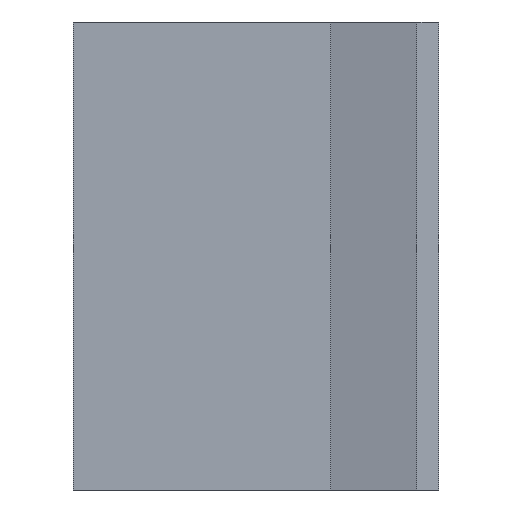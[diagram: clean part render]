
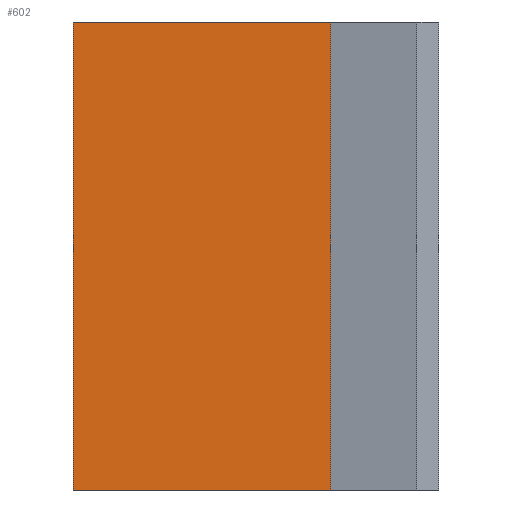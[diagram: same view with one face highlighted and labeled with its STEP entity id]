
A CAD part, left-side view. The second image highlights one B-rep face of the part: STEP entity #602.
In plain terms, the highlighted planar face has unit normal (-1, 0, 0).
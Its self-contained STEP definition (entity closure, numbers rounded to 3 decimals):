
#36=FACE_OUTER_BOUND('',#66,.T.);
#66=EDGE_LOOP('',(#491,#492,#493,#494));
#102=LINE('',#846,#186);
#141=LINE('',#924,#225);
#144=LINE('',#931,#228);
#145=LINE('',#932,#229);
#186=VECTOR('',#690,10.);
#225=VECTOR('',#751,10.);
#228=VECTOR('',#758,10.);
#229=VECTOR('',#759,10.);
#261=VERTEX_POINT('',#842);
#262=VERTEX_POINT('',#844);
#290=VERTEX_POINT('',#922);
#292=VERTEX_POINT('',#930);
#326=EDGE_CURVE('',#262,#261,#102,.T.);
#365=EDGE_CURVE('',#290,#262,#141,.T.);
#368=EDGE_CURVE('',#292,#290,#144,.T.);
#369=EDGE_CURVE('',#261,#292,#145,.T.);
#491=ORIENTED_EDGE('',*,*,#365,.F.);
#492=ORIENTED_EDGE('',*,*,#368,.F.);
#493=ORIENTED_EDGE('',*,*,#369,.F.);
#494=ORIENTED_EDGE('',*,*,#326,.F.);
#572=PLANE('',#634);
#602=ADVANCED_FACE('',(#36),#572,.T.);
#634=AXIS2_PLACEMENT_3D('',#929,#756,#757);
#690=DIRECTION('',(0.,0.,-1.));
#751=DIRECTION('',(0.,-1.,0.));
#756=DIRECTION('center_axis',(-1.,0.,0.));
#757=DIRECTION('ref_axis',(0.,0.,1.));
#758=DIRECTION('',(0.,0.,1.));
#759=DIRECTION('',(0.,1.,0.));
#842=CARTESIAN_POINT('',(-5.,0.,0.));
#844=CARTESIAN_POINT('',(-5.,0.,10.));
#846=CARTESIAN_POINT('',(-5.,0.,-0.25));
#922=CARTESIAN_POINT('',(-5.,5.5,10.));
#924=CARTESIAN_POINT('',(-5.,4.,10.));
#929=CARTESIAN_POINT('Origin',(-5.,5.5,10.5));
#930=CARTESIAN_POINT('',(-5.,5.5,0.));
#931=CARTESIAN_POINT('',(-5.,5.5,10.25));
#932=CARTESIAN_POINT('',(-5.,1.5,0.));
